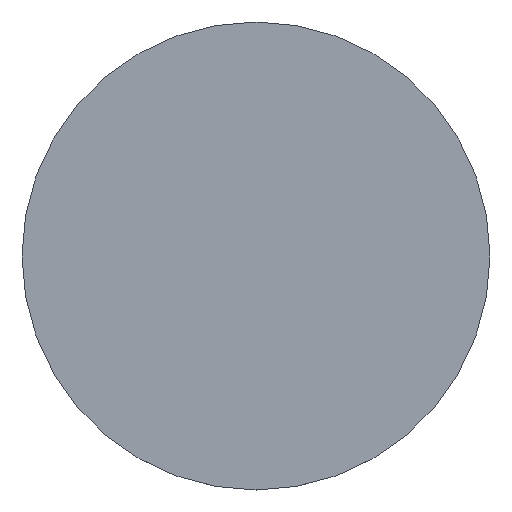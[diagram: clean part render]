
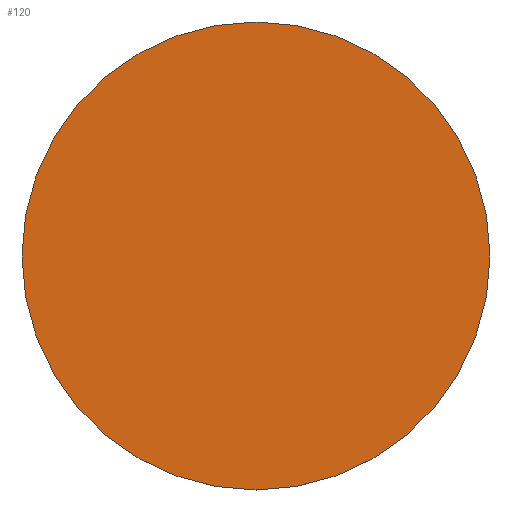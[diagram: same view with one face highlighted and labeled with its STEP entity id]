
A CAD part, top view. The second image highlights one B-rep face of the part: STEP entity #120.
In plain terms, the highlighted planar face has unit normal (0, 0, 1).
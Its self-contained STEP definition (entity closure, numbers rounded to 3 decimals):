
#26=PLANE('',#152);
#44=ORIENTED_EDGE('',*,*,#53,.F.);
#53=EDGE_CURVE('',#62,#62,#71,.T.);
#62=VERTEX_POINT('',#220);
#71=CIRCLE('',#151,30.);
#89=EDGE_LOOP('',(#44));
#107=FACE_BOUND('',#89,.T.);
#120=ADVANCED_FACE('',(#107),#26,.F.);
#151=AXIS2_PLACEMENT_3D('',#219,#189,#190);
#152=AXIS2_PLACEMENT_3D('',#221,#191,#192);
#189=DIRECTION('',(0.,0.,-1.));
#190=DIRECTION('',(1.,0.,0.));
#191=DIRECTION('',(0.,0.,-1.));
#192=DIRECTION('',(-1.,0.,0.));
#219=CARTESIAN_POINT('',(0.,0.,-4.));
#220=CARTESIAN_POINT('',(30.,0.,-4.));
#221=CARTESIAN_POINT('',(0.,0.,-4.));
